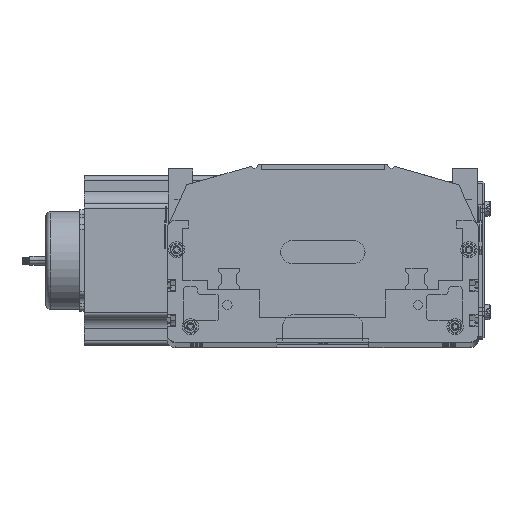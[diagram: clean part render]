
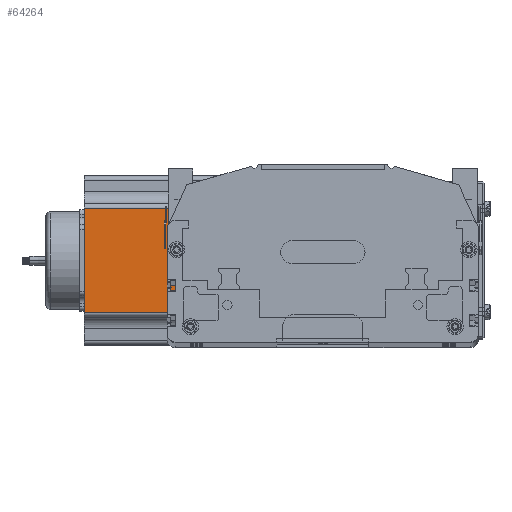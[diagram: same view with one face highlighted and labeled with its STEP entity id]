
A CAD part, top view. The second image highlights one B-rep face of the part: STEP entity #64264.
In plain terms, the highlighted planar face has unit normal (0, 0, 1) as drawn and (0, -1, 0) by its records, which use the part's own axes.
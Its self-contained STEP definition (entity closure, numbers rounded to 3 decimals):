
#15605 = CARTESIAN_POINT ( 'NONE',  ( 21.048, 0., 0. ) ) ;
#15916 = CARTESIAN_POINT ( 'NONE',  ( 0., 0., 160.5 ) ) ;
#15941 = CARTESIAN_POINT ( 'NONE',  ( 88.952, 0., 0. ) ) ;
#15942 = CARTESIAN_POINT ( 'NONE',  ( 88.952, 0., 160.5 ) ) ;
#15967 = DIRECTION ( 'NONE',  ( 0., 0., 1. ) ) ;
#15968 = DIRECTION ( 'NONE',  ( 0., 1., 0. ) ) ;
#15978 = DIRECTION ( 'NONE',  ( 1., 0., 0. ) ) ;
#15979 = VECTOR ( 'NONE', #15978, 1000. ) ;
#15981 = AXIS2_PLACEMENT_3D ( 'NONE', #15916, #15968, #15967 ) ;
#15984 = FACE_OUTER_BOUND ( 'NONE', #64261, .T. ) ;
#15998 = CARTESIAN_POINT ( 'NONE',  ( 0., 0., 0. ) ) ;
#16000 = LINE ( 'NONE', #15998, #15979 ) ;
#16016 = PLANE ( 'NONE',  #15981 ) ;
#16032 = DIRECTION ( 'NONE',  ( 0., 0., 1. ) ) ;
#16033 = VECTOR ( 'NONE', #16032, 1000. ) ;
#16035 = CARTESIAN_POINT ( 'NONE',  ( 88.952, 0., 160.5 ) ) ;
#16039 = DIRECTION ( 'NONE',  ( 1., 0., 0. ) ) ;
#16040 = VECTOR ( 'NONE', #16039, 1000. ) ;
#16045 = CARTESIAN_POINT ( 'NONE',  ( 21.048, 0., 160.5 ) ) ;
#16050 = CARTESIAN_POINT ( 'NONE',  ( 0., 0., 160.5 ) ) ;
#16051 = LINE ( 'NONE', #16050, #16040 ) ;
#16381 = DIRECTION ( 'NONE',  ( 0., 0., -1. ) ) ;
#16383 = VECTOR ( 'NONE', #16381, 1000. ) ;
#16389 = CARTESIAN_POINT ( 'NONE',  ( 21.048, 0., 160.5 ) ) ;
#16441 = LINE ( 'NONE', #16035, #16033 ) ;
#16445 = LINE ( 'NONE', #16389, #16383 ) ;
#64228 = VERTEX_POINT ( 'NONE', #15941 ) ;
#64235 = VERTEX_POINT ( 'NONE', #15605 ) ;
#64253 = ORIENTED_EDGE ( 'NONE', *, *, #64258, .T. ) ;
#64256 = ORIENTED_EDGE ( 'NONE', *, *, #64344, .F. ) ;
#64258 = EDGE_CURVE ( 'NONE', #64235, #64228, #16000, .T. ) ;
#64261 = EDGE_LOOP ( 'NONE', ( #64253, #64265, #64256, #64359 ) ) ;
#64264 = ADVANCED_FACE ( 'NONE', ( #15984 ), #16016, .F. ) ;
#64265 = ORIENTED_EDGE ( 'NONE', *, *, #64348, .T. ) ;
#64269 = VERTEX_POINT ( 'NONE', #15942 ) ;
#64342 = VERTEX_POINT ( 'NONE', #16045 ) ;
#64344 = EDGE_CURVE ( 'NONE', #64342, #64269, #16051, .T. ) ;
#64348 = EDGE_CURVE ( 'NONE', #64228, #64269, #16441, .T. ) ;
#64354 = EDGE_CURVE ( 'NONE', #64342, #64235, #16445, .T. ) ;
#64359 = ORIENTED_EDGE ( 'NONE', *, *, #64354, .T. ) ;
